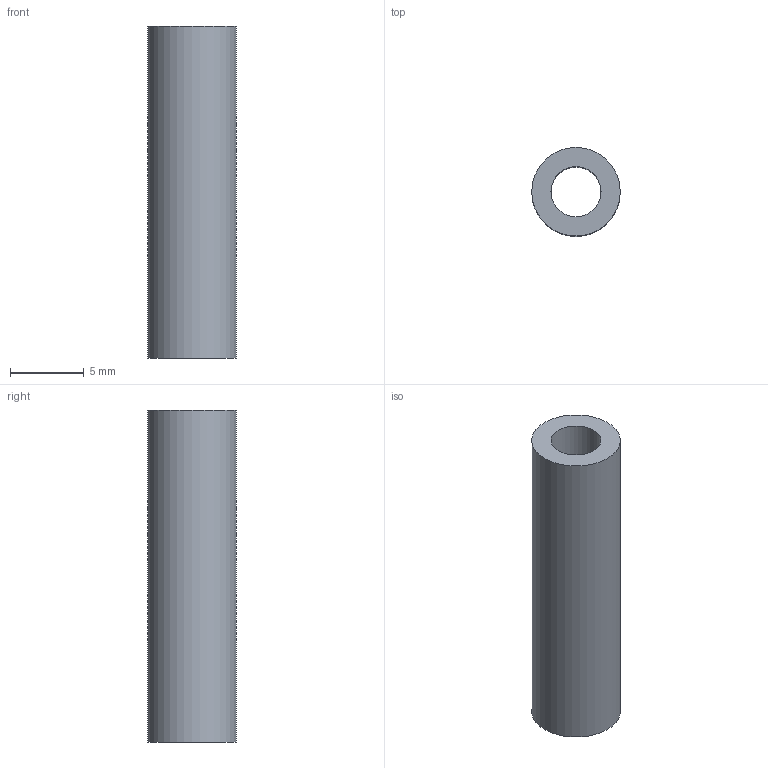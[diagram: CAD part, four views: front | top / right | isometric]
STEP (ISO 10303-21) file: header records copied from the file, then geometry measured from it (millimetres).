
FILE_DESCRIPTION(('Open CASCADE Model'),'2;1');
FILE_NAME('Open CASCADE Shape Model','2026-11-11T19:28:18',('Author'),( 'Open CASCADE'),'Open CASCADE STEP processor 7.9','Open CASCADE 7.9' ,'Unknown');
FILE_SCHEMA(('AUTOMOTIVE_DESIGN { 1 0 10303 214 1 1 1 1 }'));
Length unit declared in the file: millimetre
Products named in the file (1): Open CASCADE STEP translator 7.9 12
Bounding box: 6 x 6 x 22.5 mm (x, y, z)
Volume: 431.9 mm3; surface area: 702.8 mm2
Topology: 1 solids, 1 shells, 4 faces, 6 edges, 4 vertices
Faces by surface type: cylinder 2, plane 2
Full cylindrical faces by diameter (mm): 3.4 x1, 6 x1
Entity records: 192 total; most frequent: CARTESIAN_POINT 39, DIRECTION 30, ORIENTED_EDGE 12, PCURVE 12, DEFINITIONAL_REPRESENTATION 12, LINE 10, VECTOR 10, AXIS2_PLACEMENT_3D 9
